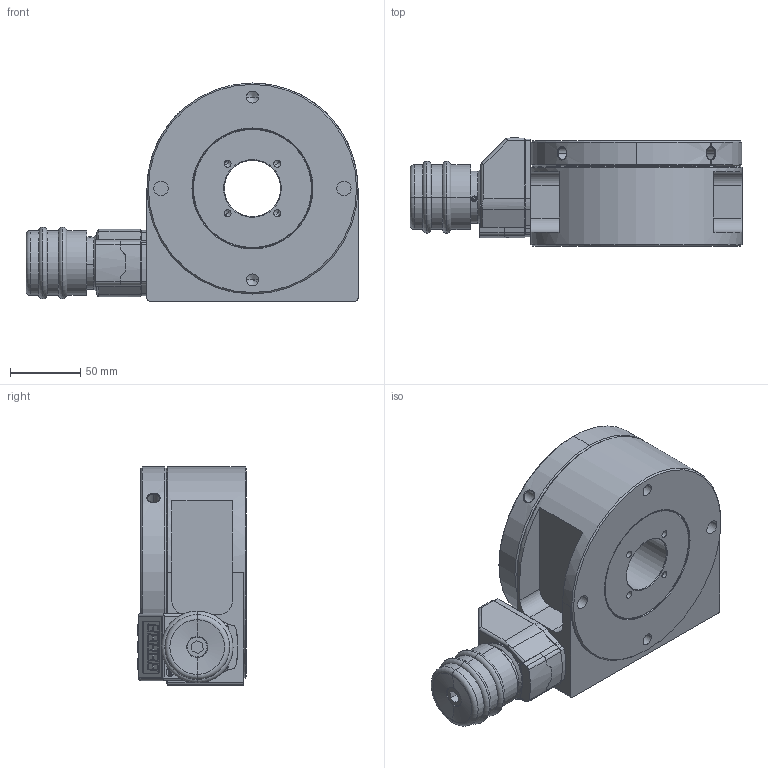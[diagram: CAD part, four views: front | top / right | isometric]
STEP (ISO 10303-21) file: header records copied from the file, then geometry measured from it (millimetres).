
FILE_DESCRIPTION (( 'STEP AP203' ), '1' );
FILE_NAME ('DT36025-PAE-Drehtisch.STEP', '2016-01-15T15:53:44', ( '' ), ( '' ), 'SwSTEP 2.0', 'SolidWorks 2014', '' );
FILE_SCHEMA (( 'CONFIG_CONTROL_DESIGN' ));
Length unit declared in the file: millimetre
Products named in the file (4): DT36025-000-Drehtisch-Gehäuse-PA_PAE; DT36025-000-03-Drehscheibe-komplett; PAE25-DT-000-Elektronischer-Positionsanzeiger-Komplett; DT36025-PAE-Drehtisch
Assembly tree (3 placements, depth 2):
  DT36025-PAE-Drehtisch
    DT36025-000-Drehtisch-Gehäuse-PA_PAE
    DT36025-000-03-Drehscheibe-komplett
    PAE25-DT-000-Elektronischer-Positionsanzeiger-Komplett
Bounding box: 235.96 x 77.4 x 155 mm (x, y, z)
Volume: 1363514.5 mm3; surface area: 266102.7 mm2
Topology: 14 solids, 19 shells, 1886 faces, 5025 edges, 3253 vertices
Faces by surface type: plane 960, cylinder 484, cone 278, torus 150, sphere 10, bspline 4
Entity records: 61280 total; most frequent: CARTESIAN_POINT 14691, ORIENTED_EDGE 9968, DIRECTION 9181, EDGE_CURVE 4984, AXIS2_PLACEMENT_3D 3269, VERTEX_POINT 3250, LINE 2643, VECTOR 2643
